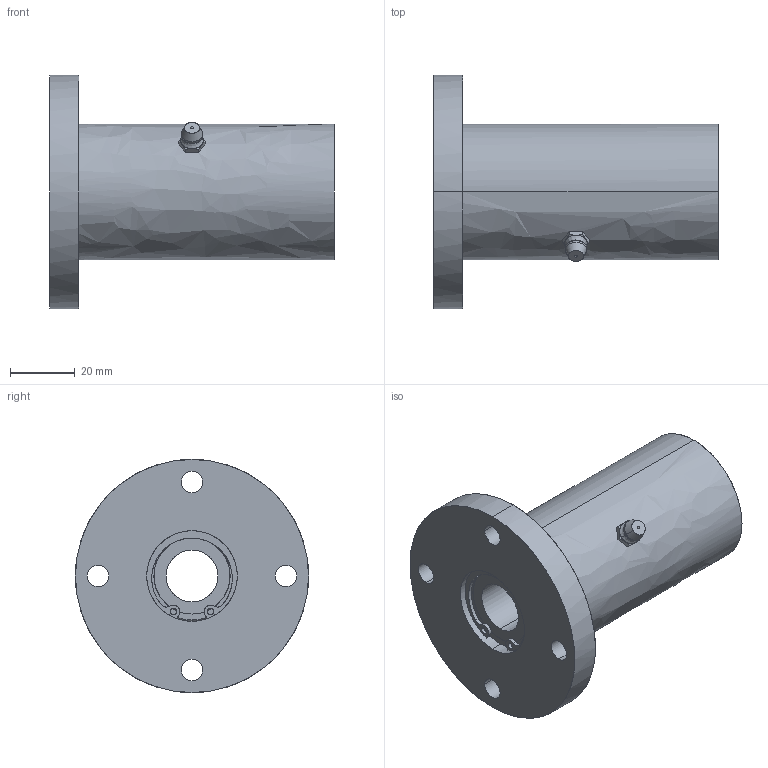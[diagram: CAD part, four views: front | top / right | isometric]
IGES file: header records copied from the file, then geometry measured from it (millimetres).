
Global section: file name: No Iges File Name specified; native system: AutoDesk Inventor R10; preprocessor: AutoDesk Inventor Iges Exporter R10; author: No Author specified; organization: No Organization specified; date: 20101214.141921; units: millimetre
Bounding box: 88 x 72 x 72 mm (x, y, z)
Surface area: 28839.8 mm2 (no closed solid volume)
Topology: 0 solids, 0 shells, 147 faces, 1027 edges, 1025 vertices
Faces by surface type: bspline 147
